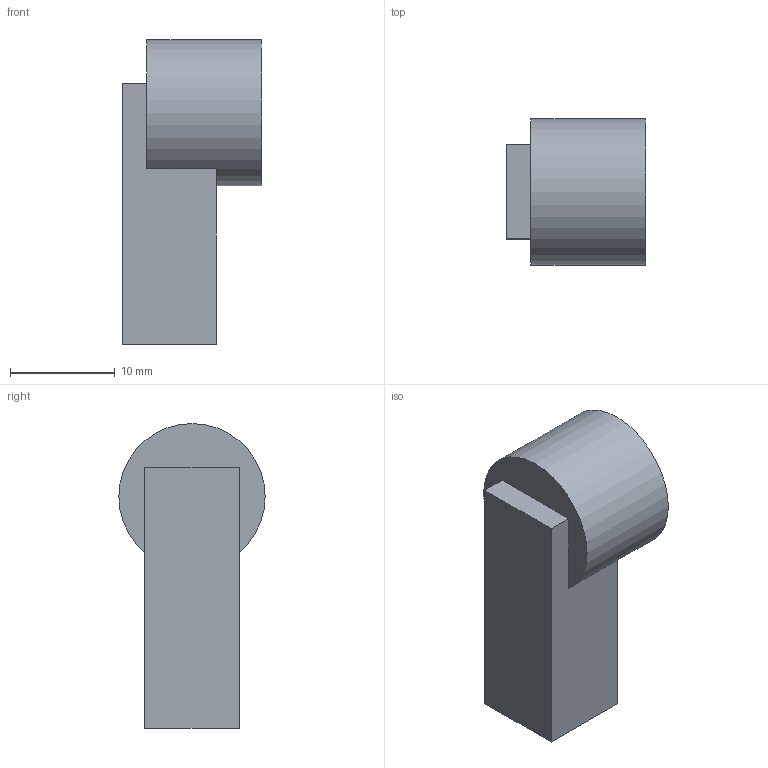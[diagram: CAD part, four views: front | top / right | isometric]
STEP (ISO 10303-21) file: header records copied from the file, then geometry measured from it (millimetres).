
FILE_DESCRIPTION(('FreeCAD Model'),'2;1');
FILE_NAME('Open CASCADE Shape Model','2026-11-20T08:25:36',('FreeCAD'),( 'FreeCAD'),'Open CASCADE STEP processor 7.8','FreeCAD','Unknown');
FILE_SCHEMA(('AUTOMOTIVE_DESIGN { 1 0 10303 214 1 1 1 1 }'));
Length unit declared in the file: millimetre
Products named in the file (1): Open CASCADE STEP translator 7.8 27
Bounding box: 13.35 x 14 x 29.18 mm (x, y, z)
Volume: 2991.4 mm3; surface area: 1606.9 mm2
Topology: 1 solids, 1 shells, 11 faces, 24 edges, 16 vertices
Faces by surface type: plane 9, cylinder 2
Full cylindrical faces by diameter (mm): 4.4 x1, 14 x1
Entity records: 314 total; most frequent: DIRECTION 54, CARTESIAN_POINT 52, ORIENTED_EDGE 48, EDGE_CURVE 24, AXIS2_PLACEMENT_3D 18, LINE 18, VECTOR 18, VERTEX_POINT 16
